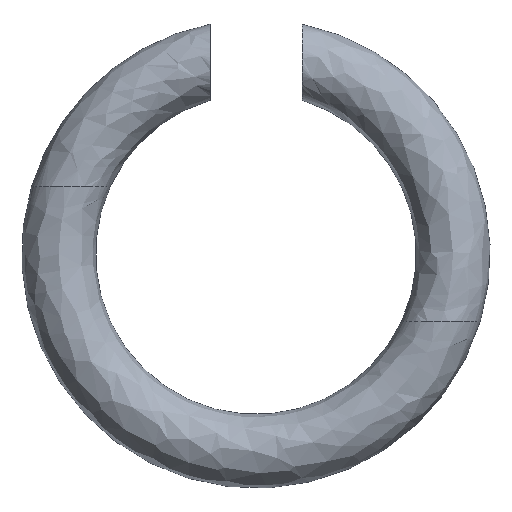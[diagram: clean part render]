
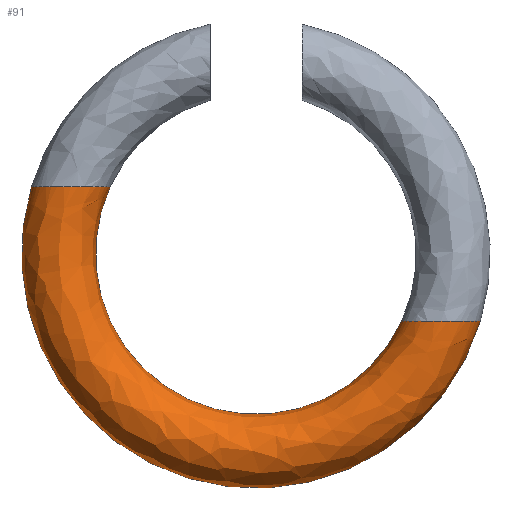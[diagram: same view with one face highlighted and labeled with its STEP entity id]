
A CAD part, front view. The second image highlights one B-rep face of the part: STEP entity #91.
In plain terms, the highlighted free-form (B-spline) face has degree [3, 3] with [4, 4] control points.
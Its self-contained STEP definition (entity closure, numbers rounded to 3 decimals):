
#12 = ORIENTED_EDGE ( 'NONE', *, *, #217, .T. ) ;
#13 = CARTESIAN_POINT ( 'NONE',  ( -8.558, -8.943, 16.369 ) ) ;
#16 = CARTESIAN_POINT ( 'NONE',  ( 5.538, -5.943, 11.241 ) ) ;
#21 = CIRCLE ( 'NONE', #309, 1.5 ) ;
#24 = CARTESIAN_POINT ( 'NONE',  ( -7.058, -5.943, 16.369 ) ) ;
#42 = CARTESIAN_POINT ( 'NONE',  ( -13.686, -5.943, -0.727 ) ) ;
#45 = CARTESIAN_POINT ( 'NONE',  ( -8.558, -5.943, 16.369 ) ) ;
#50 = DIRECTION ( 'NONE',  ( 0.958, 0., -0.287 ) ) ;
#68 = EDGE_LOOP ( 'NONE', ( #243, #12, #220, #348 ) ) ;
#72 = CARTESIAN_POINT ( 'NONE',  ( -10.686, -5.943, 5.273 ) ) ;
#90 = VERTEX_POINT ( 'NONE', #45 ) ;
#91 = ADVANCED_FACE ( 'NONE', ( #178 ), #251, .T. ) ;
#97 = CARTESIAN_POINT ( 'NONE',  ( -5.558, -8.943, 16.369 ) ) ;
#101 = CARTESIAN_POINT ( 'NONE',  ( 8.538, -5.943, 11.241 ) ) ;
#110 = VERTEX_POINT ( 'NONE', #170 ) ;
#121 = AXIS2_PLACEMENT_3D ( 'NONE', #138, #398, #50 ) ;
#132 = CARTESIAN_POINT ( 'NONE',  ( 3.41, -8.943, -5.856 ) ) ;
#133 = CARTESIAN_POINT ( 'NONE',  ( -13.686, -8.943, -0.727 ) ) ;
#138 = CARTESIAN_POINT ( 'NONE',  ( -0.01, -5.943, 13.805 ) ) ;
#148 = DIRECTION ( 'NONE',  ( 0., 0., 1. ) ) ;
#154 = EDGE_CURVE ( 'NONE', #90, #159, #158, .T. ) ;
#158 = CIRCLE ( 'NONE', #121, 8.924 ) ;
#159 = VERTEX_POINT ( 'NONE', #172 ) ;
#170 = CARTESIAN_POINT ( 'NONE',  ( 5.538, -5.943, 11.241 ) ) ;
#172 = CARTESIAN_POINT ( 'NONE',  ( 8.538, -5.943, 11.241 ) ) ;
#178 = FACE_OUTER_BOUND ( 'NONE', #68, .T. ) ;
#184 = CARTESIAN_POINT ( 'NONE',  ( -5.558, -5.943, 16.369 ) ) ;
#185 = EDGE_CURVE ( 'NONE', #110, #159, #291, .T. ) ;
#199 = CARTESIAN_POINT ( 'NONE',  ( -8.558, -5.943, 16.369 ) ) ;
#211 = DIRECTION ( 'NONE',  ( -1., 0., 0. ) ) ;
#214 = DIRECTION ( 'NONE',  ( 1., 0., 0. ) ) ;
#217 = EDGE_CURVE ( 'NONE', #317, #90, #21, .T. ) ;
#220 = ORIENTED_EDGE ( 'NONE', *, *, #154, .T. ) ;
#231 = CARTESIAN_POINT ( 'NONE',  ( 0.41, -5.943, 0.144 ) ) ;
#235 = CARTESIAN_POINT ( 'NONE',  ( 8.538, -8.943, 11.241 ) ) ;
#243 = ORIENTED_EDGE ( 'NONE', *, *, #276, .F. ) ;
#251 =( BOUNDED_SURFACE ( )  B_SPLINE_SURFACE ( 3, 3, ( 
 ( #263, #72, #231, #16 ),
 ( #97, #389, #330, #331 ),
 ( #13, #133, #132, #235 ),
 ( #199, #42, #268, #101 ) ),
 .UNSPECIFIED., .F., .F., .T. ) 
 B_SPLINE_SURFACE_WITH_KNOTS ( ( 4, 4 ),
 ( 4, 4 ),
 ( 0., 1. ),
 ( 0., 1. ),
 .UNSPECIFIED. ) 
 GEOMETRIC_REPRESENTATION_ITEM ( )  RATIONAL_B_SPLINE_SURFACE ( (
 ( 1., 0.333, 0.333, 1.),
 ( 0.333, 0.111, 0.111, 0.333),
 ( 0.333, 0.111, 0.111, 0.333),
 ( 1., 0.333, 0.333, 1.) ) ) 
 REPRESENTATION_ITEM ( '' )  SURFACE ( )  );
#263 = CARTESIAN_POINT ( 'NONE',  ( -5.558, -5.943, 16.369 ) ) ;
#268 = CARTESIAN_POINT ( 'NONE',  ( 3.41, -5.943, -5.856 ) ) ;
#276 = EDGE_CURVE ( 'NONE', #317, #110, #372, .T. ) ;
#278 = DIRECTION ( 'NONE',  ( 0., 0., -1. ) ) ;
#291 = CIRCLE ( 'NONE', #340, 1.5 ) ;
#309 = AXIS2_PLACEMENT_3D ( 'NONE', #24, #278, #211 ) ;
#317 = VERTEX_POINT ( 'NONE', #184 ) ;
#319 = DIRECTION ( 'NONE',  ( 0.908, 0., -0.42 ) ) ;
#320 = DIRECTION ( 'NONE',  ( 0., -1., 0. ) ) ;
#330 = CARTESIAN_POINT ( 'NONE',  ( 0.41, -8.943, 0.144 ) ) ;
#331 = CARTESIAN_POINT ( 'NONE',  ( 5.538, -8.943, 11.241 ) ) ;
#340 = AXIS2_PLACEMENT_3D ( 'NONE', #342, #148, #214 ) ;
#342 = CARTESIAN_POINT ( 'NONE',  ( 7.038, -5.943, 11.241 ) ) ;
#343 = CARTESIAN_POINT ( 'NONE',  ( -0.01, -5.943, 13.805 ) ) ;
#347 = AXIS2_PLACEMENT_3D ( 'NONE', #343, #320, #319 ) ;
#348 = ORIENTED_EDGE ( 'NONE', *, *, #185, .F. ) ;
#372 = CIRCLE ( 'NONE', #347, 6.112 ) ;
#389 = CARTESIAN_POINT ( 'NONE',  ( -10.686, -8.943, 5.273 ) ) ;
#398 = DIRECTION ( 'NONE',  ( 0., -1., 0. ) ) ;
